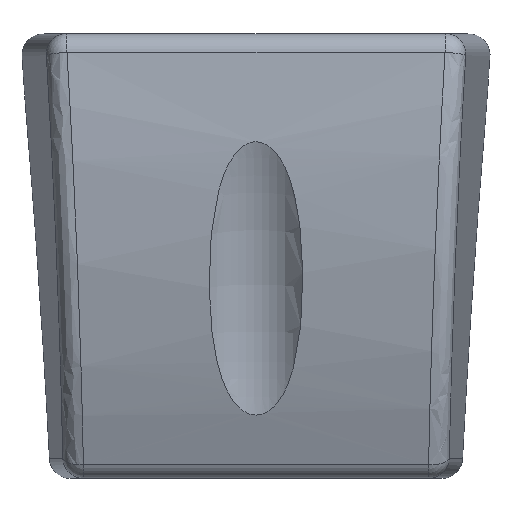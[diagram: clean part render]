
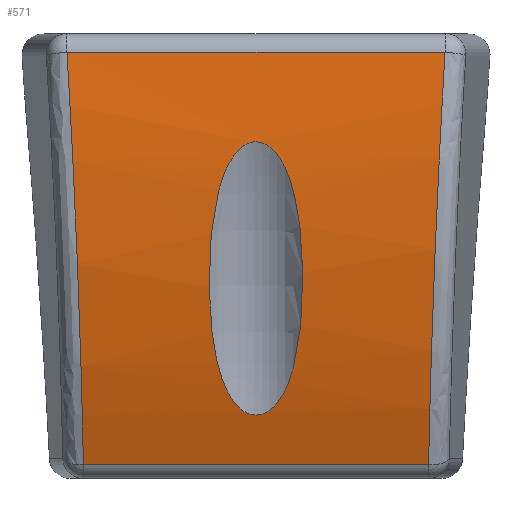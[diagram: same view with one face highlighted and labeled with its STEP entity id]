
A CAD part, top view. The second image highlights one B-rep face of the part: STEP entity #571.
In plain terms, the highlighted cylindrical face has radius 31.058 mm (diameter 62.116 mm), a partial arc.
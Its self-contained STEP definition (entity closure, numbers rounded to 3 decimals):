
#17=FACE_BOUND('',#231,.T.);
#45=ELLIPSE('',#650,31.212,31.058);
#47=ELLIPSE('',#652,31.212,31.058);
#95=LINE('',#1136,#123);
#101=LINE('',#1189,#129);
#123=VECTOR('',#785,10.);
#129=VECTOR('',#805,10.);
#153=CYLINDRICAL_SURFACE('',#669,31.058);
#189=FACE_OUTER_BOUND('',#230,.T.);
#230=EDGE_LOOP('',(#504,#505,#506,#507));
#231=EDGE_LOOP('',(#508));
#248=B_SPLINE_CURVE_WITH_KNOTS('',3,(#988,#989,#990,#991,#992,#993,#994,
#995,#996,#997,#998,#999,#1000,#1001,#1002,#1003,#1004,#1005,#1006,#1007,
#1008,#1009,#1010,#1011,#1012,#1013,#1014,#1015,#1016,#1017,#1018,#1019,
#1020,#1021,#1022,#1023,#1024,#1025,#1026,#1027,#1028,#1029,#1030,#1031,
#1032,#1033),.UNSPECIFIED.,.T.,.F.,(4,2,2,2,2,2,2,2,2,2,2,2,2,2,2,2,2,2,
2,2,2,2,4),(0.,0.026,0.056,0.103,0.178,
0.278,0.388,0.488,0.578,
0.636,0.674,0.701,0.726,
0.756,0.804,0.882,0.982,
1.089,1.186,1.272,1.327,1.357,
1.384),.UNSPECIFIED.);
#264=VERTEX_POINT('',#987);
#270=VERTEX_POINT('',#1048);
#274=VERTEX_POINT('',#1059);
#281=VERTEX_POINT('',#1119);
#283=VERTEX_POINT('',#1128);
#313=EDGE_CURVE('',#264,#264,#248,.T.);
#344=EDGE_CURVE('',#283,#281,#95,.T.);
#348=EDGE_CURVE('',#274,#283,#45,.T.);
#350=EDGE_CURVE('',#281,#270,#47,.T.);
#354=EDGE_CURVE('',#270,#274,#101,.T.);
#504=ORIENTED_EDGE('',*,*,#344,.F.);
#505=ORIENTED_EDGE('',*,*,#348,.F.);
#506=ORIENTED_EDGE('',*,*,#354,.F.);
#507=ORIENTED_EDGE('',*,*,#350,.F.);
#508=ORIENTED_EDGE('',*,*,#313,.T.);
#571=ADVANCED_FACE('',(#189,#17),#153,.T.);
#650=AXIS2_PLACEMENT_3D('',#1161,#792,#793);
#652=AXIS2_PLACEMENT_3D('',#1183,#796,#797);
#669=AXIS2_PLACEMENT_3D('',#1257,#841,#842);
#785=DIRECTION('',(1.,0.,0.));
#792=DIRECTION('center_axis',(-0.995,-0.051,0.085));
#793=DIRECTION('ref_axis',(0.099,-0.513,0.853));
#796=DIRECTION('center_axis',(0.995,-0.051,0.085));
#797=DIRECTION('ref_axis',(-0.099,-0.513,0.853));
#805=DIRECTION('',(-1.,0.,0.));
#841=DIRECTION('center_axis',(1.,0.,0.));
#842=DIRECTION('ref_axis',(0.,-0.113,-0.994));
#987=CARTESIAN_POINT('',(0.,-3.656,5.55));
#988=CARTESIAN_POINT('Ctrl Pts',(0.,-3.656,
5.55));
#989=CARTESIAN_POINT('Ctrl Pts',(0.085,-3.656,5.55));
#990=CARTESIAN_POINT('Ctrl Pts',(0.17,-3.673,5.55));
#991=CARTESIAN_POINT('Ctrl Pts',(0.349,-3.744,5.549));
#992=CARTESIAN_POINT('Ctrl Pts',(0.44,-3.803,5.549));
#993=CARTESIAN_POINT('Ctrl Pts',(0.647,-3.983,5.547));
#994=CARTESIAN_POINT('Ctrl Pts',(0.756,-4.123,5.544));
#995=CARTESIAN_POINT('Ctrl Pts',(0.992,-4.51,5.535));
#996=CARTESIAN_POINT('Ctrl Pts',(1.127,-4.824,5.525));
#997=CARTESIAN_POINT('Ctrl Pts',(1.392,-5.778,5.472));
#998=CARTESIAN_POINT('Ctrl Pts',(1.479,-6.39,5.423));
#999=CARTESIAN_POINT('Ctrl Pts',(1.581,-7.618,5.285));
#1000=CARTESIAN_POINT('Ctrl Pts',(1.594,-8.309,5.186));
#1001=CARTESIAN_POINT('Ctrl Pts',(1.546,-9.576,4.96));
#1002=CARTESIAN_POINT('Ctrl Pts',(1.489,-10.22,4.825));
#1003=CARTESIAN_POINT('Ctrl Pts',(1.261,-11.36,4.549));
#1004=CARTESIAN_POINT('Ctrl Pts',(1.115,-11.797,4.428));
#1005=CARTESIAN_POINT('Ctrl Pts',(0.817,-12.348,4.269));
#1006=CARTESIAN_POINT('Ctrl Pts',(0.688,-12.517,4.218));
#1007=CARTESIAN_POINT('Ctrl Pts',(0.463,-12.716,4.157));
#1008=CARTESIAN_POINT('Ctrl Pts',(0.361,-12.784,4.136));
#1009=CARTESIAN_POINT('Ctrl Pts',(0.162,-12.857,4.113));
#1010=CARTESIAN_POINT('Ctrl Pts',(0.073,-12.873,
4.108));
#1011=CARTESIAN_POINT('Ctrl Pts',(-0.105,-12.868,
4.11));
#1012=CARTESIAN_POINT('Ctrl Pts',(-0.189,-12.849,
4.115));
#1013=CARTESIAN_POINT('Ctrl Pts',(-0.37,-12.776,4.138));
#1014=CARTESIAN_POINT('Ctrl Pts',(-0.461,-12.716,
4.157));
#1015=CARTESIAN_POINT('Ctrl Pts',(-0.672,-12.532,
4.214));
#1016=CARTESIAN_POINT('Ctrl Pts',(-0.782,-12.389,
4.257));
#1017=CARTESIAN_POINT('Ctrl Pts',(-1.023,-11.992,4.373));
#1018=CARTESIAN_POINT('Ctrl Pts',(-1.159,-11.667,4.465));
#1019=CARTESIAN_POINT('Ctrl Pts',(-1.415,-10.701,4.713));
#1020=CARTESIAN_POINT('Ctrl Pts',(-1.496,-10.093,4.852));
#1021=CARTESIAN_POINT('Ctrl Pts',(-1.586,-8.866,5.093));
#1022=CARTESIAN_POINT('Ctrl Pts',(-1.594,-8.176,5.206));
#1023=CARTESIAN_POINT('Ctrl Pts',(-1.534,-6.907,5.371));
#1024=CARTESIAN_POINT('Ctrl Pts',(-1.471,-6.261,5.435));
#1025=CARTESIAN_POINT('Ctrl Pts',(-1.229,-5.114,5.514));
#1026=CARTESIAN_POINT('Ctrl Pts',(-1.077,-4.68,5.53));
#1027=CARTESIAN_POINT('Ctrl Pts',(-0.777,-4.143,
5.544));
#1028=CARTESIAN_POINT('Ctrl Pts',(-0.648,-3.981,
5.547));
#1029=CARTESIAN_POINT('Ctrl Pts',(-0.438,-3.803,
5.549));
#1030=CARTESIAN_POINT('Ctrl Pts',(-0.355,-3.748,
5.549));
#1031=CARTESIAN_POINT('Ctrl Pts',(-0.179,-3.675,
5.55));
#1032=CARTESIAN_POINT('Ctrl Pts',(-0.091,-3.656,
5.55));
#1033=CARTESIAN_POINT('Ctrl Pts',(0.,-3.656,
5.55));
#1048=CARTESIAN_POINT('',(5.825,-14.549,3.526));
#1059=CARTESIAN_POINT('',(-5.825,-14.549,3.526));
#1119=CARTESIAN_POINT('',(6.379,-0.635,5.416));
#1128=CARTESIAN_POINT('',(-6.379,-0.635,5.416));
#1136=CARTESIAN_POINT('',(0.,-0.635,5.416));
#1161=CARTESIAN_POINT('Origin',(-8.875,-3.519,-25.508));
#1183=CARTESIAN_POINT('Origin',(8.875,-3.519,-25.508));
#1189=CARTESIAN_POINT('',(0.,-14.549,3.526));
#1257=CARTESIAN_POINT('Origin',(0.,-3.519,-25.508));
